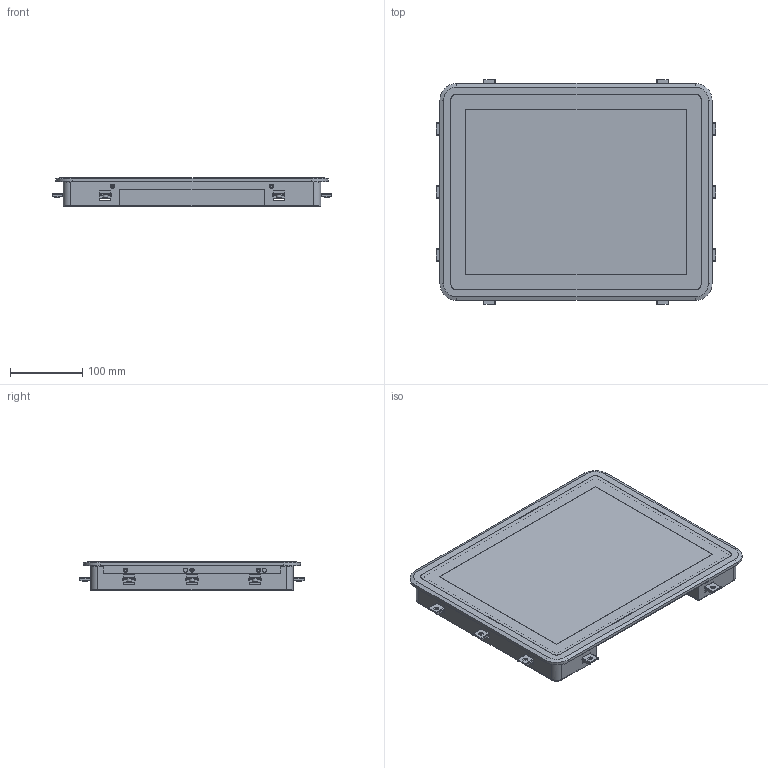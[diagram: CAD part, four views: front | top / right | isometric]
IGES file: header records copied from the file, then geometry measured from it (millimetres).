
Global section: file name: FIE150UM; native system: AutoCAD 2019 – 繁體中文 (Traditional Chinese),62HAutode; preprocessor: sk Translation Framework DWG producer (atf_dwg_producer); organization: unknown; date: 20210622.104324; units: millimetre
Bounding box: 387 x 311 x 40 mm (x, y, z)
Volume: 1521050.5 mm3; surface area: 987633.3 mm2
Topology: 21 solids, 21 shells, 1395 faces, 3663 edges, 2461 vertices
Faces by surface type: bspline 1395
